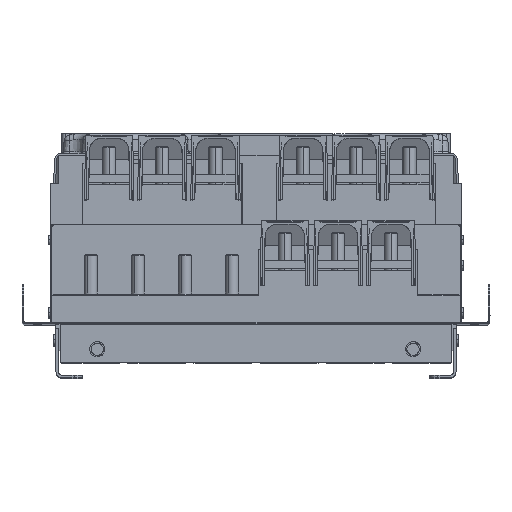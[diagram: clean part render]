
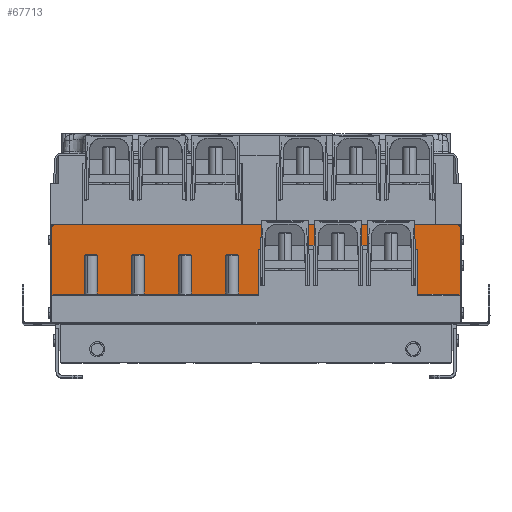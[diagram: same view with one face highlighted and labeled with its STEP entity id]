
A CAD part, top view. The second image highlights one B-rep face of the part: STEP entity #67713.
In plain terms, the highlighted planar face has unit normal (0, 0, 1).
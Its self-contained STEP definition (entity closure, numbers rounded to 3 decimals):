
#983 = AXIS2_PLACEMENT_3D ( 'NONE', #66594, #39137, #2813 ) ;
#1028 = LINE ( 'NONE', #50352, #8095 ) ;
#1247 = VERTEX_POINT ( 'NONE', #41115 ) ;
#2813 = DIRECTION ( 'NONE',  ( 1., 0., 0. ) ) ;
#4207 = EDGE_CURVE ( 'NONE', #20949, #17972, #89134, .T. ) ;
#6073 = CARTESIAN_POINT ( 'NONE',  ( 247., 115., 179. ) ) ;
#6078 = VERTEX_POINT ( 'NONE', #13941 ) ;
#6285 = DIRECTION ( 'NONE',  ( 1., 0., 0. ) ) ;
#6586 = VERTEX_POINT ( 'NONE', #63015 ) ;
#7104 = EDGE_CURVE ( 'NONE', #11798, #86336, #73535, .T. ) ;
#7912 = DIRECTION ( 'NONE',  ( -0.017, -1., 0. ) ) ;
#8095 = VECTOR ( 'NONE', #14557, 1000. ) ;
#9600 = LINE ( 'NONE', #59385, #84408 ) ;
#9818 = FACE_OUTER_BOUND ( 'NONE', #46583, .T. ) ;
#11654 = EDGE_CURVE ( 'NONE', #53909, #22241, #50717, .T. ) ;
#11695 = CARTESIAN_POINT ( 'NONE',  ( 245., 35., 179. ) ) ;
#11798 = VERTEX_POINT ( 'NONE', #76780 ) ;
#12326 = LINE ( 'NONE', #40735, #71778 ) ;
#12661 = EDGE_CURVE ( 'NONE', #34626, #6078, #56512, .T. ) ;
#12694 = CARTESIAN_POINT ( 'NONE',  ( 2.806, 35., 179. ) ) ;
#13941 = CARTESIAN_POINT ( 'NONE',  ( 192.423, 94.2, 179. ) ) ;
#14206 = VECTOR ( 'NONE', #52837, 1000. ) ;
#14557 = DIRECTION ( 'NONE',  ( 0.707, -0.707, 0. ) ) ;
#15593 = EDGE_CURVE ( 'NONE', #52322, #50518, #44000, .T. ) ;
#16458 = ORIENTED_EDGE ( 'NONE', *, *, #68462, .T. ) ;
#16525 = CARTESIAN_POINT ( 'NONE',  ( 247., 115., 179. ) ) ;
#16609 = DIRECTION ( 'NONE',  ( 1., 0., 0. ) ) ;
#16993 = CARTESIAN_POINT ( 'NONE',  ( 2.806, 89., 179. ) ) ;
#17972 = VERTEX_POINT ( 'NONE', #32480 ) ;
#18388 = CARTESIAN_POINT ( 'NONE',  ( 2.806, 89., 179. ) ) ;
#19758 = VECTOR ( 'NONE', #6285, 1000. ) ;
#19792 = ORIENTED_EDGE ( 'NONE', *, *, #20995, .T. ) ;
#19995 = CARTESIAN_POINT ( 'NONE',  ( -245., 35., 179. ) ) ;
#20949 = VERTEX_POINT ( 'NONE', #16993 ) ;
#20995 = EDGE_CURVE ( 'NONE', #22241, #91927, #45372, .T. ) ;
#21445 = CARTESIAN_POINT ( 'NONE',  ( 5.351, 63.129, 179. ) ) ;
#22241 = VERTEX_POINT ( 'NONE', #25868 ) ;
#22679 = ORIENTED_EDGE ( 'NONE', *, *, #74611, .T. ) ;
#23614 = DIRECTION ( 'NONE',  ( 0., 0., -1. ) ) ;
#23991 = CARTESIAN_POINT ( 'NONE',  ( -247., 35., 179. ) ) ;
#24029 = DIRECTION ( 'NONE',  ( 1., 0., 0. ) ) ;
#24272 = CARTESIAN_POINT ( 'NONE',  ( 243., 119., 179. ) ) ;
#24285 = ORIENTED_EDGE ( 'NONE', *, *, #11654, .T. ) ;
#25156 = ORIENTED_EDGE ( 'NONE', *, *, #30021, .F. ) ;
#25200 = AXIS2_PLACEMENT_3D ( 'NONE', #31493, #60800, #89629 ) ;
#25393 = DIRECTION ( 'NONE',  ( 1., 0., 0. ) ) ;
#25745 = CARTESIAN_POINT ( 'NONE',  ( 195.511, 89., 179. ) ) ;
#25868 = CARTESIAN_POINT ( 'NONE',  ( 195.511, 35., 179. ) ) ;
#26295 = VECTOR ( 'NONE', #33055, 1000. ) ;
#27019 = LINE ( 'NONE', #55390, #88555 ) ;
#27361 = EDGE_CURVE ( 'NONE', #77654, #20949, #12326, .T. ) ;
#27707 = DIRECTION ( 'NONE',  ( 0., 1., 0. ) ) ;
#28020 = LINE ( 'NONE', #21445, #90173 ) ;
#28643 = LINE ( 'NONE', #50425, #90030 ) ;
#28836 = ORIENTED_EDGE ( 'NONE', *, *, #7104, .F. ) ;
#29114 = CARTESIAN_POINT ( 'NONE',  ( -247., 35., 179. ) ) ;
#29657 = ORIENTED_EDGE ( 'NONE', *, *, #56143, .F. ) ;
#29994 = DIRECTION ( 'NONE',  ( 0., 1., 0. ) ) ;
#30021 = EDGE_CURVE ( 'NONE', #86744, #6586, #28643, .T. ) ;
#31493 = CARTESIAN_POINT ( 'NONE',  ( 243., 115., 179. ) ) ;
#32480 = CARTESIAN_POINT ( 'NONE',  ( 5.803, 89., 179. ) ) ;
#33055 = DIRECTION ( 'NONE',  ( 1., 0., 0. ) ) ;
#34317 = EDGE_CURVE ( 'NONE', #6586, #11798, #65486, .T. ) ;
#34626 = VERTEX_POINT ( 'NONE', #59674 ) ;
#35627 = CARTESIAN_POINT ( 'NONE',  ( 247., 33., 179. ) ) ;
#36743 = ORIENTED_EDGE ( 'NONE', *, *, #12661, .T. ) ;
#38229 = PLANE ( 'NONE',  #983 ) ;
#39100 = CARTESIAN_POINT ( 'NONE',  ( -243., 119., 179. ) ) ;
#39137 = DIRECTION ( 'NONE',  ( 0., 0., 1. ) ) ;
#40735 = CARTESIAN_POINT ( 'NONE',  ( 2.806, 35., 179. ) ) ;
#41115 = CARTESIAN_POINT ( 'NONE',  ( -245., 35., 179. ) ) ;
#42374 = VECTOR ( 'NONE', #25393, 1000. ) ;
#44000 = LINE ( 'NONE', #16525, #85045 ) ;
#44801 = ORIENTED_EDGE ( 'NONE', *, *, #63899, .T. ) ;
#45372 = LINE ( 'NONE', #23991, #14206 ) ;
#45695 = EDGE_CURVE ( 'NONE', #34626, #17972, #28020, .T. ) ;
#46583 = EDGE_LOOP ( 'NONE', ( #84036, #36743, #56192, #16458, #24285, #19792, #44801, #81213, #29657, #28836, #81075, #25156, #70517, #22679, #89801, #77152 ) ) ;
#50352 = CARTESIAN_POINT ( 'NONE',  ( 245., 35., 179. ) ) ;
#50425 = CARTESIAN_POINT ( 'NONE',  ( -247., 1., 179. ) ) ;
#50518 = VERTEX_POINT ( 'NONE', #35627 ) ;
#50717 = LINE ( 'NONE', #57748, #53795 ) ;
#51216 = CARTESIAN_POINT ( 'NONE',  ( -44.533, 94.2, 179. ) ) ;
#52322 = VERTEX_POINT ( 'NONE', #6073 ) ;
#52837 = DIRECTION ( 'NONE',  ( 1., 0., 0. ) ) ;
#53203 = VECTOR ( 'NONE', #84887, 1000. ) ;
#53238 = EDGE_CURVE ( 'NONE', #86744, #1247, #85110, .T. ) ;
#53795 = VECTOR ( 'NONE', #72145, 1000. ) ;
#53909 = VERTEX_POINT ( 'NONE', #25745 ) ;
#55390 = CARTESIAN_POINT ( 'NONE',  ( 192.965, 63.129, 179. ) ) ;
#56143 = EDGE_CURVE ( 'NONE', #86336, #52322, #61065, .T. ) ;
#56192 = ORIENTED_EDGE ( 'NONE', *, *, #85337, .T. ) ;
#56512 = LINE ( 'NONE', #51216, #53203 ) ;
#57748 = CARTESIAN_POINT ( 'NONE',  ( 195.511, 89., 179. ) ) ;
#58587 = CARTESIAN_POINT ( 'NONE',  ( -247., 33., 179. ) ) ;
#58974 = CARTESIAN_POINT ( 'NONE',  ( -243., 115., 179. ) ) ;
#59385 = CARTESIAN_POINT ( 'NONE',  ( 190.479, 89., 179. ) ) ;
#59674 = CARTESIAN_POINT ( 'NONE',  ( 5.894, 94.2, 179. ) ) ;
#59803 = DIRECTION ( 'NONE',  ( 0., -1., 0. ) ) ;
#60800 = DIRECTION ( 'NONE',  ( 0., 0., -1. ) ) ;
#61065 = CIRCLE ( 'NONE', #25200, 4. ) ;
#62686 = VECTOR ( 'NONE', #84214, 1000. ) ;
#63014 = VERTEX_POINT ( 'NONE', #81517 ) ;
#63015 = CARTESIAN_POINT ( 'NONE',  ( -247., 115., 179. ) ) ;
#63899 = EDGE_CURVE ( 'NONE', #91927, #50518, #1028, .T. ) ;
#64870 = LINE ( 'NONE', #29114, #19758 ) ;
#65486 = CIRCLE ( 'NONE', #90771, 4. ) ;
#66594 = CARTESIAN_POINT ( 'NONE',  ( -247., 31., 179. ) ) ;
#67713 = ADVANCED_FACE ( 'NONE', ( #9818 ), #38229, .T. ) ;
#68462 = EDGE_CURVE ( 'NONE', #63014, #53909, #9600, .T. ) ;
#70517 = ORIENTED_EDGE ( 'NONE', *, *, #53238, .T. ) ;
#71778 = VECTOR ( 'NONE', #27707, 1000. ) ;
#72145 = DIRECTION ( 'NONE',  ( 0., -1., 0. ) ) ;
#73535 = LINE ( 'NONE', #39100, #26295 ) ;
#74611 = EDGE_CURVE ( 'NONE', #1247, #77654, #64870, .T. ) ;
#76780 = CARTESIAN_POINT ( 'NONE',  ( -243., 119., 179. ) ) ;
#77152 = ORIENTED_EDGE ( 'NONE', *, *, #4207, .T. ) ;
#77654 = VERTEX_POINT ( 'NONE', #12694 ) ;
#81075 = ORIENTED_EDGE ( 'NONE', *, *, #34317, .F. ) ;
#81213 = ORIENTED_EDGE ( 'NONE', *, *, #15593, .F. ) ;
#81517 = CARTESIAN_POINT ( 'NONE',  ( 192.514, 89., 179. ) ) ;
#83772 = DIRECTION ( 'NONE',  ( 0.017, -1., 0. ) ) ;
#84036 = ORIENTED_EDGE ( 'NONE', *, *, #45695, .F. ) ;
#84214 = DIRECTION ( 'NONE',  ( 0.707, 0.707, 0. ) ) ;
#84408 = VECTOR ( 'NONE', #24029, 1000. ) ;
#84887 = DIRECTION ( 'NONE',  ( 1., 0., 0. ) ) ;
#85045 = VECTOR ( 'NONE', #59803, 1000. ) ;
#85110 = LINE ( 'NONE', #19995, #62686 ) ;
#85337 = EDGE_CURVE ( 'NONE', #6078, #63014, #27019, .T. ) ;
#86336 = VERTEX_POINT ( 'NONE', #24272 ) ;
#86744 = VERTEX_POINT ( 'NONE', #58587 ) ;
#88555 = VECTOR ( 'NONE', #83772, 1000. ) ;
#89134 = LINE ( 'NONE', #18388, #42374 ) ;
#89629 = DIRECTION ( 'NONE',  ( 1., 0., 0. ) ) ;
#89801 = ORIENTED_EDGE ( 'NONE', *, *, #27361, .T. ) ;
#90030 = VECTOR ( 'NONE', #29994, 1000. ) ;
#90173 = VECTOR ( 'NONE', #7912, 1000. ) ;
#90771 = AXIS2_PLACEMENT_3D ( 'NONE', #58974, #23614, #16609 ) ;
#91927 = VERTEX_POINT ( 'NONE', #11695 ) ;
